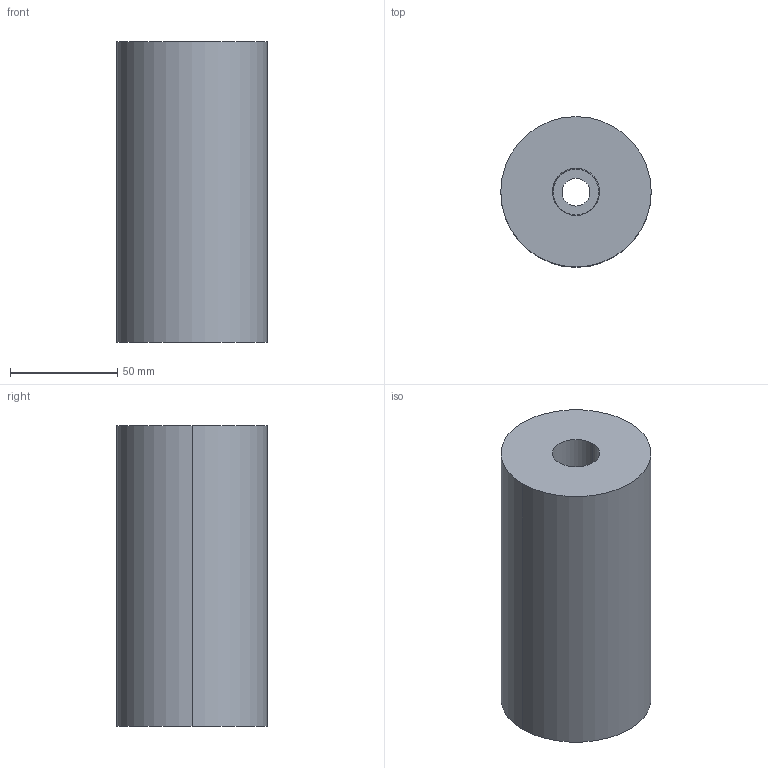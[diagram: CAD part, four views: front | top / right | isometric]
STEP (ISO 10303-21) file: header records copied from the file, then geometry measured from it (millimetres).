
FILE_DESCRIPTION(/* description */ (''),/* implementation_level */ '2;1');
FILE_NAME(/* name */ '3d_est7022140_07025_r00.stp',/* time_stamp */ '2011-01-10T14:15:39+09:00',/* author */ ('MISUMI'),/* organization */ (''),/* preprocessor_version */ 'ST-DEVELOPER v11',/* originating_system */ 'UGS - NX 5.0',/* authorisation */ '');
FILE_SCHEMA (('CONFIG_CONTROL_DESIGN'));
Length unit declared in the file: millimetre
Products named in the file (1): 3d_est7022140_07025_r00
Bounding box: 70 x 70 x 140 mm (x, y, z)
Volume: 496472.8 mm3; surface area: 52103.2 mm2
Topology: 2 solids, 2 shells, 19 faces, 38 edges, 24 vertices
Faces by surface type: cylinder 10, plane 5, cone 4
Entity records: 596 total; most frequent: DIRECTION 102, CARTESIAN_POINT 82, ORIENTED_EDGE 76, AXIS2_PLACEMENT_3D 44, EDGE_CURVE 38, EDGE_LOOP 24, VERTEX_POINT 24, CIRCLE 24
